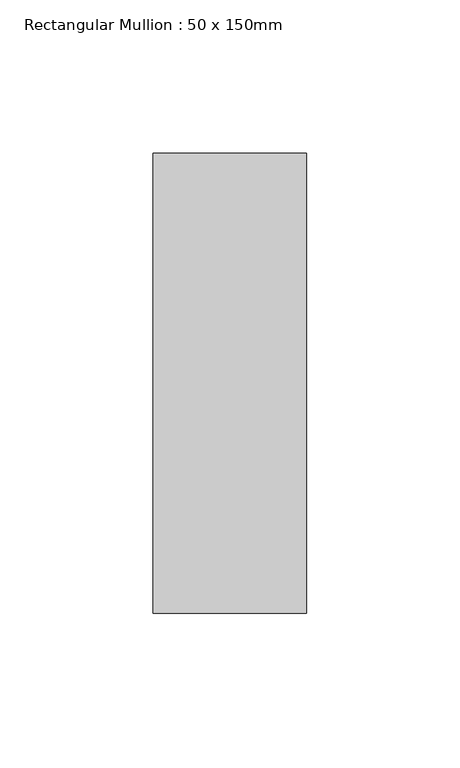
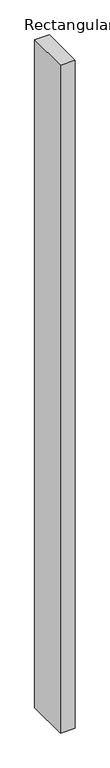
"""IFC4 building model written with IfcOpenShell, lengths in millimetres: member geometry, Rectangular Mullion : 50 x 150mm."""

from ifc_helpers import new_model, si_unit, frame, origin, place, context, project, spatial, polyline, outline, extrude, source, transform, mapped, element, save


def rectangular_mullion_50_x_150mm_ec1c4419(model_context):
    return source(origin(), model_context, "Body", "SweptSolid", [
        extrude(outline(polyline([(25.0, 75.0), (25.0, -75.0), (-25.0, -75.0), (-25.0, 75.0), (25.0, 75.0)])), frame((0.0, 0.0, -2384.642103), z_axis=(0.0, 0.0, 1.0), x_axis=(1.0, 0.0, 0.0)), (0.0, 0.0, 1.0), 2384.642103),
    ])


if __name__ == "__main__":
    model = new_model("IFC4")
    model_context = context("Model", 3, world=origin())
    ifc_project = project(units=[si_unit("LENGTHUNIT", "METRE", prefix="MILLI")], contexts=[model_context])
    site = spatial("IfcSite", under=ifc_project)
    building = spatial("IfcBuilding", under=site)
    placement = place(None, origin())
    rectangular_mullion_50_x_150mm_shape = rectangular_mullion_50_x_150mm_ec1c4419(model_context)
    element("IfcMember", 1, ObjectType="Rectangular Mullion : 50 x 150mm", at=placement, inside=building, context=model_context, shape_type="MappedRepresentation", body=[
        mapped(rectangular_mullion_50_x_150mm_shape, transform((0.0, 0.0, 0.0), x_axis=(1.0, 0.0, 0.0), y_axis=(0.0, 1.0, 0.0), z_axis=(0.0, 0.0, 1.0))),
    ])
    save(model, "model.ifc")
